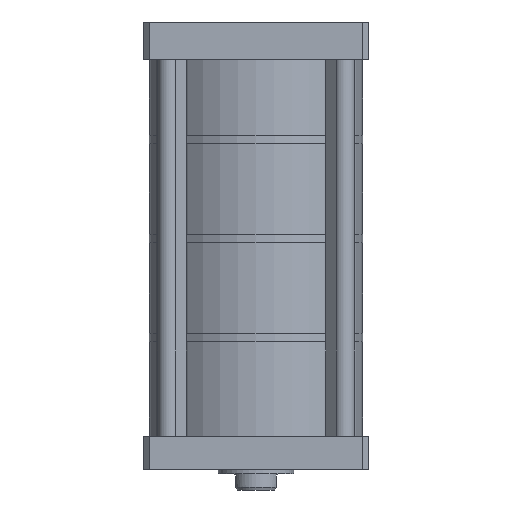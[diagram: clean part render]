
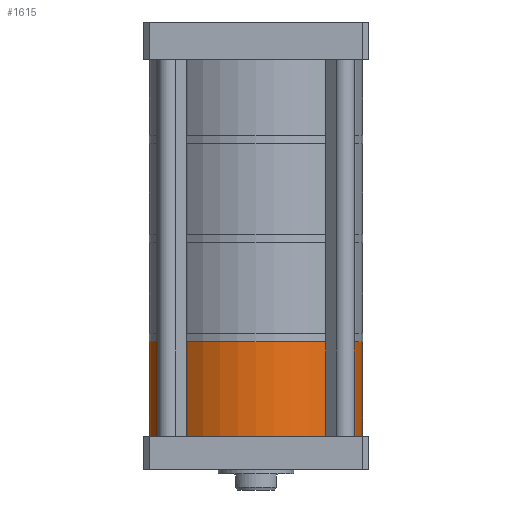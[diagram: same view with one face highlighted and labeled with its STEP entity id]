
A CAD part, front view. The second image highlights one B-rep face of the part: STEP entity #1615.
In plain terms, the highlighted cylindrical face has radius 85 mm (diameter 170 mm), a partial arc.
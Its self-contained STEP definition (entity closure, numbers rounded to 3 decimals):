
#11 = CYLINDRICAL_SURFACE ( 'NONE', #2671, 85. ) ;
#358 = CARTESIAN_POINT ( 'NONE',  ( 85., 0., -225. ) ) ;
#626 = CARTESIAN_POINT ( 'NONE',  ( 85., 0., -300.5 ) ) ;
#1079 = EDGE_CURVE ( 'NONE', #4920, #2410, #5235, .T. ) ;
#1211 = DIRECTION ( 'NONE',  ( 1., 0., 0. ) ) ;
#1615 = ADVANCED_FACE ( 'NONE', ( #4656 ), #11, .T. ) ;
#1853 = CARTESIAN_POINT ( 'NONE',  ( 85., 0., -300.5 ) ) ;
#2035 = LINE ( 'NONE', #5156, #5871 ) ;
#2048 = CARTESIAN_POINT ( 'NONE',  ( 0., 0., -300.5 ) ) ;
#2410 = VERTEX_POINT ( 'NONE', #7478 ) ;
#2517 = VERTEX_POINT ( 'NONE', #626 ) ;
#2671 = AXIS2_PLACEMENT_3D ( 'NONE', #7918, #5838, #1211 ) ;
#2672 = DIRECTION ( 'NONE',  ( 0., 0., 1. ) ) ;
#2774 = EDGE_LOOP ( 'NONE', ( #6280, #6182, #3698, #7056 ) ) ;
#2833 = DIRECTION ( 'NONE',  ( -1., 0., 0. ) ) ;
#2964 = CARTESIAN_POINT ( 'NONE',  ( 0., 0., -225. ) ) ;
#3106 = EDGE_CURVE ( 'NONE', #4532, #2410, #2035, .T. ) ;
#3345 = EDGE_CURVE ( 'NONE', #2517, #4920, #8732, .T. ) ;
#3566 = CARTESIAN_POINT ( 'NONE',  ( -85., 0., -300.5 ) ) ;
#3698 = ORIENTED_EDGE ( 'NONE', *, *, #3345, .T. ) ;
#3727 = DIRECTION ( 'NONE',  ( -1., 0., 0. ) ) ;
#3944 = AXIS2_PLACEMENT_3D ( 'NONE', #2964, #8292, #3727 ) ;
#4053 = AXIS2_PLACEMENT_3D ( 'NONE', #2048, #7390, #2833 ) ;
#4228 = CIRCLE ( 'NONE', #4053, 85. ) ;
#4532 = VERTEX_POINT ( 'NONE', #3566 ) ;
#4656 = FACE_OUTER_BOUND ( 'NONE', #2774, .T. ) ;
#4920 = VERTEX_POINT ( 'NONE', #358 ) ;
#5156 = CARTESIAN_POINT ( 'NONE',  ( -85., 0., -300.5 ) ) ;
#5235 = CIRCLE ( 'NONE', #3944, 85. ) ;
#5838 = DIRECTION ( 'NONE',  ( 0., 0., 1. ) ) ;
#5871 = VECTOR ( 'NONE', #8958, 1000. ) ;
#6182 = ORIENTED_EDGE ( 'NONE', *, *, #7575, .F. ) ;
#6280 = ORIENTED_EDGE ( 'NONE', *, *, #3106, .F. ) ;
#6467 = VECTOR ( 'NONE', #2672, 1000. ) ;
#7056 = ORIENTED_EDGE ( 'NONE', *, *, #1079, .T. ) ;
#7390 = DIRECTION ( 'NONE',  ( 0., 0., -1. ) ) ;
#7478 = CARTESIAN_POINT ( 'NONE',  ( -85., 0., -225. ) ) ;
#7575 = EDGE_CURVE ( 'NONE', #2517, #4532, #4228, .T. ) ;
#7918 = CARTESIAN_POINT ( 'NONE',  ( 0., 0., -300.5 ) ) ;
#8292 = DIRECTION ( 'NONE',  ( 0., 0., -1. ) ) ;
#8732 = LINE ( 'NONE', #1853, #6467 ) ;
#8958 = DIRECTION ( 'NONE',  ( 0., 0., 1. ) ) ;
